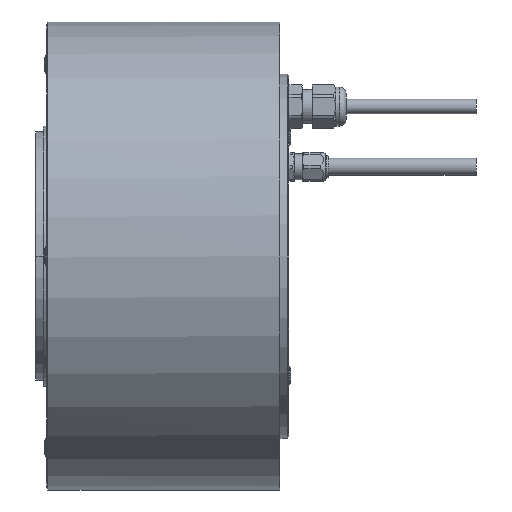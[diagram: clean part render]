
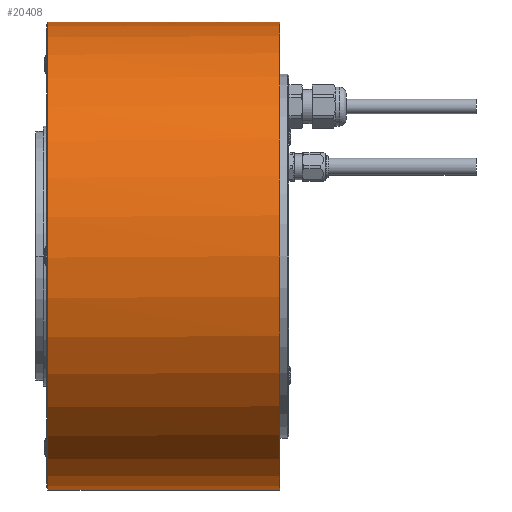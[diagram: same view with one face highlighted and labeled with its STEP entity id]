
A CAD part, left-side view. The second image highlights one B-rep face of the part: STEP entity #20408.
In plain terms, the highlighted cylindrical face has radius 90 mm (diameter 180 mm), a partial arc.
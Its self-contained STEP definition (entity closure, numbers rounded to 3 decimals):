
#4 = DIRECTION ( 'NONE',  ( 0., 0., 1. ) ) ;
#470 = CARTESIAN_POINT ( 'NONE',  ( -0.558, -16.222, 89.999 ) ) ;
#605 = VERTEX_POINT ( 'NONE', #2920 ) ;
#666 = CARTESIAN_POINT ( 'NONE',  ( -2.596, -15.376, 89.963 ) ) ;
#809 = LINE ( 'NONE', #7450, #4416 ) ;
#966 = ORIENTED_EDGE ( 'NONE', *, *, #19687, .T. ) ;
#990 = CARTESIAN_POINT ( 'NONE',  ( -1.25, 62., 89.991 ) ) ;
#1027 = AXIS2_PLACEMENT_3D ( 'NONE', #3793, #15763, #2270 ) ;
#1125 = EDGE_CURVE ( 'NONE', #12940, #19263, #4284, .T. ) ;
#1236 = CARTESIAN_POINT ( 'NONE',  ( -1.882, -8.179, 89.981 ) ) ;
#1604 = CARTESIAN_POINT ( 'NONE',  ( 0., -30., 90. ) ) ;
#1735 = VECTOR ( 'NONE', #9659, 1000. ) ;
#1831 = ORIENTED_EDGE ( 'NONE', *, *, #9282, .F. ) ;
#2220 = CARTESIAN_POINT ( 'NONE',  ( -0.281, -16.25, 90. ) ) ;
#2265 = CARTESIAN_POINT ( 'NONE',  ( -4.222, -11.443, 89.901 ) ) ;
#2270 = DIRECTION ( 'NONE',  ( 0., 0., 1. ) ) ;
#2351 = VECTOR ( 'NONE', #7856, 1000. ) ;
#2418 = CARTESIAN_POINT ( 'NONE',  ( -3.381, -14.59, 89.937 ) ) ;
#2535 = CARTESIAN_POINT ( 'NONE',  ( -4.222, -12.557, 89.901 ) ) ;
#2920 = CARTESIAN_POINT ( 'NONE',  ( 0., 62.2, -90. ) ) ;
#2988 = CARTESIAN_POINT ( 'NONE',  ( -3.689, -9.871, 89.925 ) ) ;
#3731 = CARTESIAN_POINT ( 'NONE',  ( -4.25, -12., 89.9 ) ) ;
#3778 = EDGE_CURVE ( 'NONE', #18860, #19263, #19817, .T. ) ;
#3793 = CARTESIAN_POINT ( 'NONE',  ( 0., 62., 0. ) ) ;
#3905 = CARTESIAN_POINT ( 'NONE',  ( -4.25, -12., 89.9 ) ) ;
#4053 = CARTESIAN_POINT ( 'NONE',  ( -4.115, -13.1, 89.906 ) ) ;
#4152 = CARTESIAN_POINT ( 'NONE',  ( 0., -7.75, 90. ) ) ;
#4284 = LINE ( 'NONE', #20702, #19529 ) ;
#4341 = CARTESIAN_POINT ( 'NONE',  ( 0., 62.2, 0. ) ) ;
#4416 = VECTOR ( 'NONE', #14085, 1000. ) ;
#5102 = CARTESIAN_POINT ( 'NONE',  ( 0., -16.25, 90. ) ) ;
#5531 = CARTESIAN_POINT ( 'NONE',  ( -1.101, -7.886, 89.994 ) ) ;
#5698 = CARTESIAN_POINT ( 'NONE',  ( -2.133, -15.687, 89.975 ) ) ;
#5763 = EDGE_CURVE ( 'NONE', #14980, #605, #809, .T. ) ;
#5792 = CARTESIAN_POINT ( 'NONE',  ( -2.81, -15.2, 89.956 ) ) ;
#5914 = ORIENTED_EDGE ( 'NONE', *, *, #3778, .F. ) ;
#6090 = DIRECTION ( 'NONE',  ( 0., 1., 0. ) ) ;
#6231 = VERTEX_POINT ( 'NONE', #19827 ) ;
#6249 = CARTESIAN_POINT ( 'NONE',  ( -2.594, -8.622, 89.963 ) ) ;
#6415 = EDGE_CURVE ( 'NONE', #14607, #14980, #14507, .T. ) ;
#6541 = FACE_OUTER_BOUND ( 'NONE', #14260, .T. ) ;
#6796 = ORIENTED_EDGE ( 'NONE', *, *, #17949, .F. ) ;
#6871 = CARTESIAN_POINT ( 'NONE',  ( 0., -27., 0. ) ) ;
#7202 = CARTESIAN_POINT ( 'NONE',  ( -3.689, -14.128, 89.924 ) ) ;
#7450 = CARTESIAN_POINT ( 'NONE',  ( 0., -30., -90. ) ) ;
#7524 = LINE ( 'NONE', #990, #2351 ) ;
#7856 = DIRECTION ( 'NONE',  ( 0., 1., 0. ) ) ;
#7881 = CARTESIAN_POINT ( 'NONE',  ( -2.129, -8.311, 89.975 ) ) ;
#8013 = AXIS2_PLACEMENT_3D ( 'NONE', #17970, #14719, #4 ) ;
#8855 = ORIENTED_EDGE ( 'NONE', *, *, #9599, .T. ) ;
#8894 = CARTESIAN_POINT ( 'NONE',  ( -3.819, -10.115, 89.919 ) ) ;
#8946 = CARTESIAN_POINT ( 'NONE',  ( -4.25, -12.28, 89.9 ) ) ;
#9164 = CARTESIAN_POINT ( 'NONE',  ( -1.108, -16.113, 89.994 ) ) ;
#9282 = EDGE_CURVE ( 'NONE', #12940, #6231, #16280, .T. ) ;
#9398 = CARTESIAN_POINT ( 'NONE',  ( -0.553, -7.777, 89.999 ) ) ;
#9521 = CARTESIAN_POINT ( 'NONE',  ( -0.277, -7.75, 90. ) ) ;
#9559 = LINE ( 'NONE', #1604, #1735 ) ;
#9599 = EDGE_CURVE ( 'NONE', #18860, #13939, #7524, .T. ) ;
#9621 = CARTESIAN_POINT ( 'NONE',  ( -4.033, -10.629, 89.91 ) ) ;
#9659 = DIRECTION ( 'NONE',  ( 0., 1., 0. ) ) ;
#9808 = CIRCLE ( 'NONE', #17465, 90. ) ;
#9959 = CARTESIAN_POINT ( 'NONE',  ( -1.25, 62.2, 89.991 ) ) ;
#10217 = ORIENTED_EDGE ( 'NONE', *, *, #1125, .T. ) ;
#10372 = VERTEX_POINT ( 'NONE', #5102 ) ;
#10671 = AXIS2_PLACEMENT_3D ( 'NONE', #6871, #13500, #11882 ) ;
#11882 = DIRECTION ( 'NONE',  ( 0., 0., -1. ) ) ;
#12153 = CARTESIAN_POINT ( 'NONE',  ( -4.114, -10.9, 89.906 ) ) ;
#12316 = CARTESIAN_POINT ( 'NONE',  ( 0., -16.25, 90. ) ) ;
#12419 = DIRECTION ( 'NONE',  ( 0., 1., 0. ) ) ;
#12791 = ORIENTED_EDGE ( 'NONE', *, *, #6415, .F. ) ;
#12804 = CARTESIAN_POINT ( 'NONE',  ( 0., 62., 90. ) ) ;
#12867 = CARTESIAN_POINT ( 'NONE',  ( -3.2, -9.19, 89.943 ) ) ;
#12940 = VERTEX_POINT ( 'NONE', #4152 ) ;
#13500 = DIRECTION ( 'NONE',  ( 0., -1., 0. ) ) ;
#13846 = CARTESIAN_POINT ( 'NONE',  ( -3.202, -14.808, 89.943 ) ) ;
#13939 = VERTEX_POINT ( 'NONE', #9959 ) ;
#14085 = DIRECTION ( 'NONE',  ( 0., 1., 0. ) ) ;
#14260 = EDGE_LOOP ( 'NONE', ( #17447, #12791, #966, #14774, #1831, #10217, #5914, #8855, #6796 ) ) ;
#14438 = EDGE_CURVE ( 'NONE', #6231, #10372, #18758, .T. ) ;
#14507 = CIRCLE ( 'NONE', #10671, 90. ) ;
#14607 = VERTEX_POINT ( 'NONE', #19389 ) ;
#14719 = DIRECTION ( 'NONE',  ( 0., 1., 0. ) ) ;
#14774 = ORIENTED_EDGE ( 'NONE', *, *, #14438, .F. ) ;
#14874 = CARTESIAN_POINT ( 'NONE',  ( 0., -27., -90. ) ) ;
#14925 = CYLINDRICAL_SURFACE ( 'NONE', #8013, 90. ) ;
#14980 = VERTEX_POINT ( 'NONE', #14874 ) ;
#15763 = DIRECTION ( 'NONE',  ( 0., 1., 0. ) ) ;
#16163 = CARTESIAN_POINT ( 'NONE',  ( -1.37, -7.967, 89.99 ) ) ;
#16280 = B_SPLINE_CURVE_WITH_KNOTS ( 'NONE', 3,
 ( #17578, #9521, #9398, #5531, #16163, #1236, #7881, #6249, #19535, #12867, #17902, #2988, #8894, #9621, #12153, #2265, #18815, #3905 ),
 .UNSPECIFIED., .F., .F.,
 ( 4, 2, 2, 2, 2, 2, 2, 2, 4 ),
 ( 0.013, 0.014, 0.015, 0.016, 0.017, 0.017, 0.018, 0.019, 0.02 ),
 .UNSPECIFIED. ) ;
#17135 = CARTESIAN_POINT ( 'NONE',  ( -1.885, -15.819, 89.981 ) ) ;
#17447 = ORIENTED_EDGE ( 'NONE', *, *, #5763, .F. ) ;
#17465 = AXIS2_PLACEMENT_3D ( 'NONE', #4341, #6090, #20665 ) ;
#17578 = CARTESIAN_POINT ( 'NONE',  ( 0., -7.75, 90. ) ) ;
#17902 = CARTESIAN_POINT ( 'NONE',  ( -3.38, -9.408, 89.937 ) ) ;
#17949 = EDGE_CURVE ( 'NONE', #605, #13939, #9808, .T. ) ;
#17970 = CARTESIAN_POINT ( 'NONE',  ( 0., -30., 0. ) ) ;
#18751 = CARTESIAN_POINT ( 'NONE',  ( -3.82, -13.884, 89.919 ) ) ;
#18758 = B_SPLINE_CURVE_WITH_KNOTS ( 'NONE', 3,
 ( #3731, #8946, #2535, #4053, #20482, #18751, #7202, #2418, #13846, #5792, #666, #5698, #17135, #20379, #9164, #470, #2220, #12316 ),
 .UNSPECIFIED., .F., .F.,
 ( 4, 2, 2, 2, 2, 2, 2, 2, 4 ),
 ( 0.02, 0.021, 0.022, 0.022, 0.023, 0.024, 0.025, 0.026, 0.027 ),
 .UNSPECIFIED. ) ;
#18815 = CARTESIAN_POINT ( 'NONE',  ( -4.25, -11.719, 89.9 ) ) ;
#18860 = VERTEX_POINT ( 'NONE', #19938 ) ;
#19263 = VERTEX_POINT ( 'NONE', #12804 ) ;
#19389 = CARTESIAN_POINT ( 'NONE',  ( 0., -27., 90. ) ) ;
#19529 = VECTOR ( 'NONE', #12419, 1000. ) ;
#19535 = CARTESIAN_POINT ( 'NONE',  ( -2.808, -8.798, 89.956 ) ) ;
#19687 = EDGE_CURVE ( 'NONE', #14607, #10372, #9559, .T. ) ;
#19817 = CIRCLE ( 'NONE', #1027, 90. ) ;
#19827 = CARTESIAN_POINT ( 'NONE',  ( -4.25, -12., 89.9 ) ) ;
#19938 = CARTESIAN_POINT ( 'NONE',  ( -1.25, 62., 89.991 ) ) ;
#20379 = CARTESIAN_POINT ( 'NONE',  ( -1.374, -16.031, 89.99 ) ) ;
#20408 = ADVANCED_FACE ( 'NONE', ( #6541 ), #14925, .T. ) ;
#20482 = CARTESIAN_POINT ( 'NONE',  ( -4.033, -13.369, 89.91 ) ) ;
#20665 = DIRECTION ( 'NONE',  ( 0., 0., 1. ) ) ;
#20702 = CARTESIAN_POINT ( 'NONE',  ( 0., -30., 90. ) ) ;
